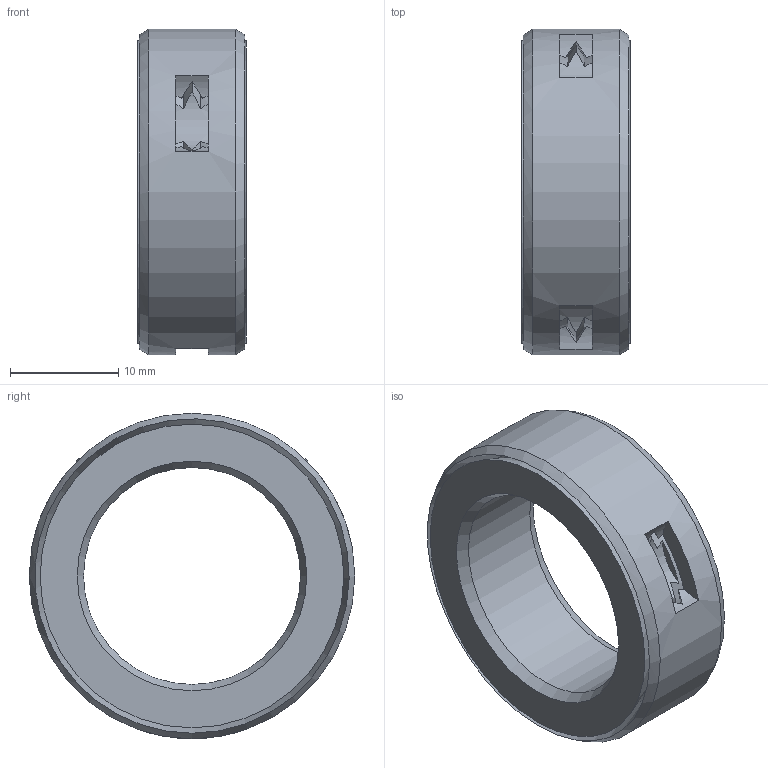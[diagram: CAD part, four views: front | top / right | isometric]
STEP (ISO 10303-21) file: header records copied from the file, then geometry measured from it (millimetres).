
FILE_DESCRIPTION(/* description */ (''),/* implementation_level */ '2;1');
FILE_NAME(/* name */ '301345 M 20x30x10.stp',/* time_stamp */ '2016-12-15T11:16:34+01:00',/* author */ (''),/* organization */ (''),/* preprocessor_version */ 'ST-DEVELOPER v15',/* originating_system */ 'SIEMENS PLM Software NX 8.5',/* authorisation */ '');
FILE_SCHEMA (('CONFIG_CONTROL_DESIGN'));
Length unit declared in the file: millimetre
Products named in the file (1): ATE0000124_01
Bounding box: 10 x 30 x 30 mm (x, y, z)
Volume: 3220.3 mm3; surface area: 4040.6 mm2
Topology: 2 solids, 2 shells, 47 faces, 143 edges, 94 vertices
Faces by surface type: cone 22, plane 14, cylinder 11
Full cylindrical faces by diameter (mm): 20 x1, 30 x1
Entity records: 1586 total; most frequent: CARTESIAN_POINT 390, ORIENTED_EDGE 236, DIRECTION 226, EDGE_CURVE 118, AXIS2_PLACEMENT_3D 110, VERTEX_POINT 82, CIRCLE 64, EDGE_LOOP 60
